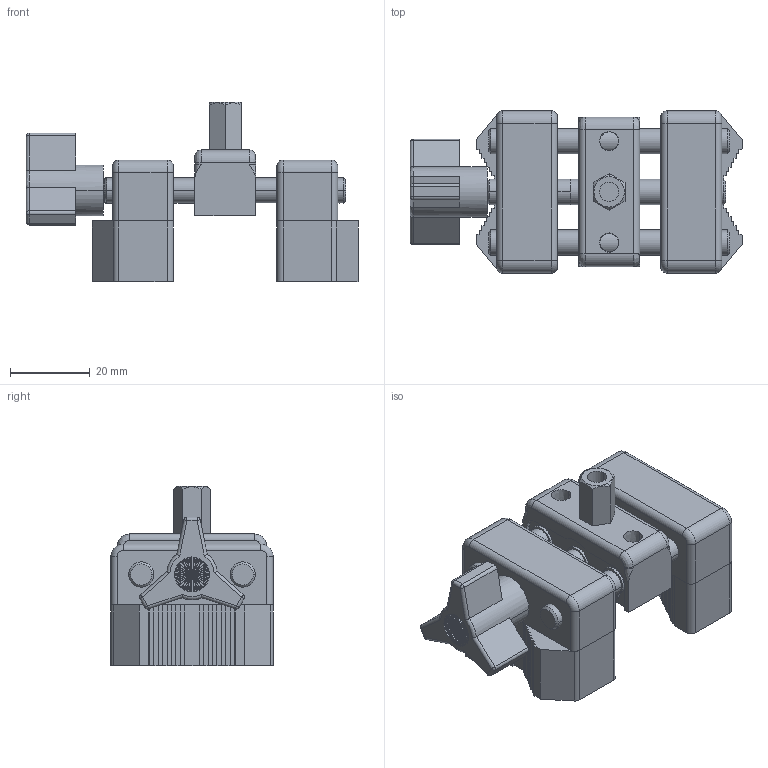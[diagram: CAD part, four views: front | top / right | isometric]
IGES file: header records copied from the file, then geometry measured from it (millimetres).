
Global section: file name: No Iges File Name specified; native system: Autodesk Inventor 2010; preprocessor: AutoDesk Inventor Iges Exporter R2010; author: mlampen; date: 20170420.110201; units: inch
Bounding box: 83.13 x 40.64 x 44.96 mm (x, y, z)
Volume: 51653.4 mm3; surface area: 23612 mm2
Topology: 9 solids, 9 shells, 724 faces, 1815 edges, 1161 vertices
Faces by surface type: plane 376, revolution 156, cylinder 134, torus 19, bspline 19, cone 14, sphere 6
